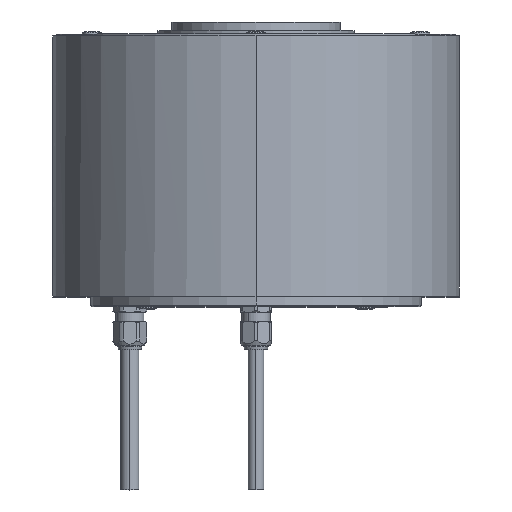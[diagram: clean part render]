
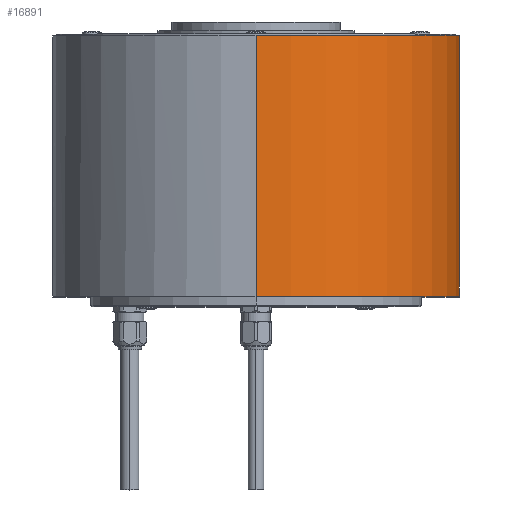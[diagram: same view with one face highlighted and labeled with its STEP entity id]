
A CAD part, top view. The second image highlights one B-rep face of the part: STEP entity #16891.
In plain terms, the highlighted cylindrical face has radius 72.5 mm (diameter 145 mm), a partial arc.
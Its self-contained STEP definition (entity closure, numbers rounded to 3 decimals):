
#408 = ORIENTED_EDGE ( 'NONE', *, *, #17441, .T. ) ;
#625 = VECTOR ( 'NONE', #2693, 1000. ) ;
#1284 = DIRECTION ( 'NONE',  ( 0., -1., 0. ) ) ;
#1714 = DIRECTION ( 'NONE',  ( 0., -1., 0. ) ) ;
#2693 = DIRECTION ( 'NONE',  ( 0., -1., 0. ) ) ;
#3225 = EDGE_CURVE ( 'NONE', #13587, #15671, #15347, .T. ) ;
#3467 = DIRECTION ( 'NONE',  ( 0., 0., -1. ) ) ;
#3658 = CARTESIAN_POINT ( 'NONE',  ( 0., 3., -72.5 ) ) ;
#3661 = FACE_OUTER_BOUND ( 'NONE', #16687, .T. ) ;
#3962 = CARTESIAN_POINT ( 'NONE',  ( 0., 96.2, -72.5 ) ) ;
#4712 = VECTOR ( 'NONE', #10664, 1000. ) ;
#5185 = AXIS2_PLACEMENT_3D ( 'NONE', #10872, #16823, #3467 ) ;
#6201 = CARTESIAN_POINT ( 'NONE',  ( 0., 3., 72.5 ) ) ;
#7665 = EDGE_CURVE ( 'NONE', #15838, #15671, #15801, .T. ) ;
#7673 = CARTESIAN_POINT ( 'NONE',  ( 0., 3., 0. ) ) ;
#8707 = DIRECTION ( 'NONE',  ( 0., 0., -1. ) ) ;
#9045 = DIRECTION ( 'NONE',  ( 0., 0., -1. ) ) ;
#9406 = CARTESIAN_POINT ( 'NONE',  ( 0., 0., 72.5 ) ) ;
#10115 = ORIENTED_EDGE ( 'NONE', *, *, #7665, .F. ) ;
#10180 = EDGE_CURVE ( 'NONE', #13155, #15838, #17423, .T. ) ;
#10664 = DIRECTION ( 'NONE',  ( 0., -1., 0. ) ) ;
#10872 = CARTESIAN_POINT ( 'NONE',  ( 0., 0., 0. ) ) ;
#13155 = VERTEX_POINT ( 'NONE', #3962 ) ;
#13587 = VERTEX_POINT ( 'NONE', #14656 ) ;
#13612 = CYLINDRICAL_SURFACE ( 'NONE', #5185, 72.5 ) ;
#13960 = ORIENTED_EDGE ( 'NONE', *, *, #3225, .T. ) ;
#14656 = CARTESIAN_POINT ( 'NONE',  ( 0., 96.2, 72.5 ) ) ;
#15347 = LINE ( 'NONE', #9406, #4712 ) ;
#15477 = CIRCLE ( 'NONE', #18594, 72.5 ) ;
#15671 = VERTEX_POINT ( 'NONE', #6201 ) ;
#15801 = CIRCLE ( 'NONE', #16722, 72.5 ) ;
#15838 = VERTEX_POINT ( 'NONE', #3658 ) ;
#16062 = CARTESIAN_POINT ( 'NONE',  ( 0., 0., -72.5 ) ) ;
#16575 = ORIENTED_EDGE ( 'NONE', *, *, #10180, .F. ) ;
#16687 = EDGE_LOOP ( 'NONE', ( #408, #13960, #10115, #16575 ) ) ;
#16722 = AXIS2_PLACEMENT_3D ( 'NONE', #7673, #1714, #9045 ) ;
#16823 = DIRECTION ( 'NONE',  ( 0., -1., 0. ) ) ;
#16891 = ADVANCED_FACE ( 'NONE', ( #3661 ), #13612, .T. ) ;
#17423 = LINE ( 'NONE', #16062, #625 ) ;
#17441 = EDGE_CURVE ( 'NONE', #13155, #13587, #15477, .T. ) ;
#17463 = CARTESIAN_POINT ( 'NONE',  ( 0., 96.2, 0. ) ) ;
#18594 = AXIS2_PLACEMENT_3D ( 'NONE', #17463, #1284, #8707 ) ;
